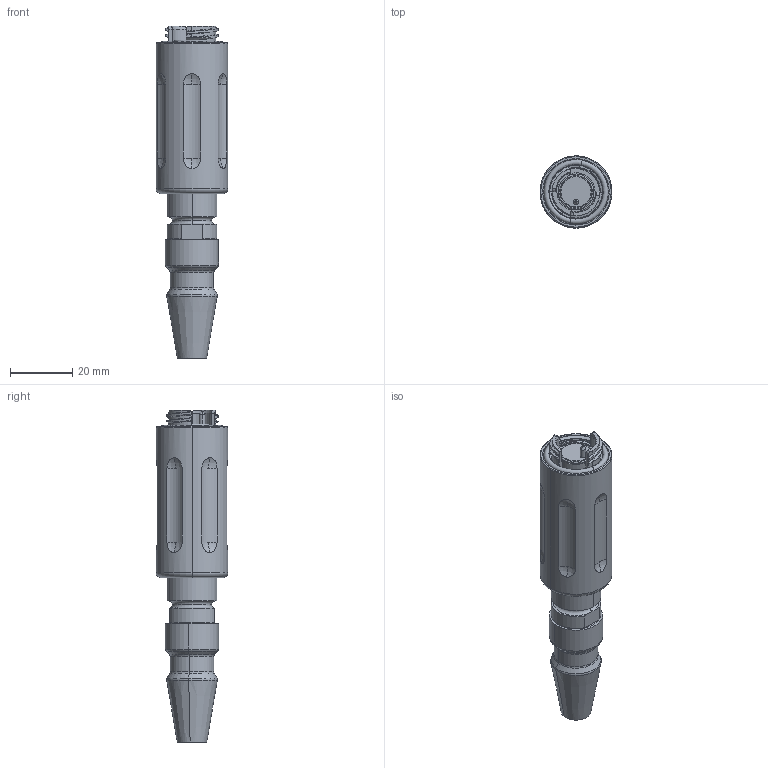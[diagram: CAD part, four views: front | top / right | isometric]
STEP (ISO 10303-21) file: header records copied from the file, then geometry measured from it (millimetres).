
FILE_DESCRIPTION (( 'STEP AP214' ), '1' );
FILE_NAME ('QMICRO-PEEX-XXXX-S95.STEP', '2025-05-02T23:43:06', ( '' ), ( '' ), 'SwSTEP 2.0', 'SolidWorks 2024', '' );
FILE_SCHEMA (( 'AUTOMOTIVE_DESIGN' ));
Length unit declared in the file: inch
Products named in the file (1): QMICRO-PEEX-XXXX-S95
Bounding box: 23.15 x 23.15 x 106.75 mm (x, y, z)
Volume: 26708 mm3; surface area: 9312.2 mm2
Topology: 1 solids, 1 shells, 203 faces, 496 edges, 314 vertices
Faces by surface type: cylinder 72, plane 33, torus 28, cone 26, sphere 24, bspline 20
Entity records: 9639 total; most frequent: CARTESIAN_POINT 5092, ORIENTED_EDGE 992, DIRECTION 916, EDGE_CURVE 496, AXIS2_PLACEMENT_3D 392, VERTEX_POINT 314, EDGE_LOOP 222, CIRCLE 208
